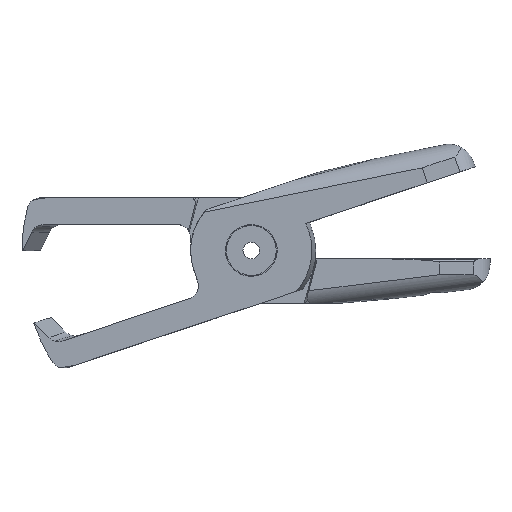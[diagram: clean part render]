
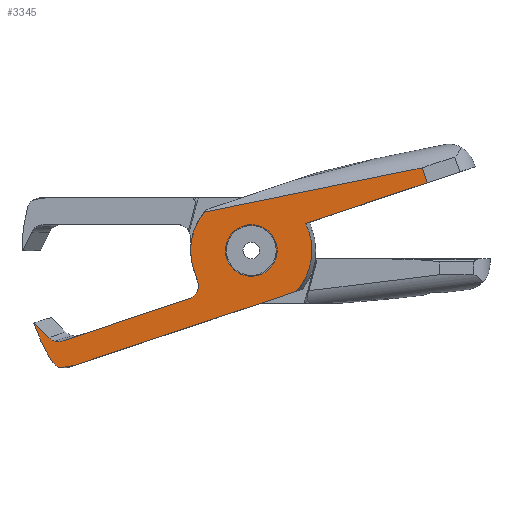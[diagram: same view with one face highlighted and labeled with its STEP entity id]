
A CAD part, top view. The second image highlights one B-rep face of the part: STEP entity #3345.
In plain terms, the highlighted planar face has unit normal (0, 0, 1) as drawn and (0, 0, -1) by its records, which use the part's own axes.
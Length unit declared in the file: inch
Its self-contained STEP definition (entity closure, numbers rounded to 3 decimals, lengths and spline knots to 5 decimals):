
#2645=CARTESIAN_POINT('',(0.87205,1.16708,0.0455));
#2646=VERTEX_POINT('',#2645);
#2654=CARTESIAN_POINT('',(0.39196,1.16708,0.0455));
#2655=VERTEX_POINT('',#2654);
#2662=CARTESIAN_POINT('',(0.632,1.16708,0.0455));
#2663=DIRECTION('',(0.0,0.0,-1.0));
#2664=DIRECTION('',(1.0,0.0,0.0));
#2665=AXIS2_PLACEMENT_3D('',#2662,#2663,#2664);
#2666=CIRCLE('',#2665,0.24005);
#2667=EDGE_CURVE('',#2655,#2646,#2666,.T.);
#2840=CARTESIAN_POINT('',(1.21592,1.16708,0.0455));
#2841=VERTEX_POINT('',#2840);
#2849=CARTESIAN_POINT('',(0.91635,1.67708,0.0455));
#2850=VERTEX_POINT('',#2849);
#2851=CARTESIAN_POINT('',(0.632,1.16708,0.0455));
#2852=DIRECTION('',(0.0,0.0,1.0));
#2853=DIRECTION('',(1.0,0.0,0.0));
#2854=AXIS2_PLACEMENT_3D('',#2851,#2852,#2853);
#2855=CIRCLE('',#2854,0.58391);
#2856=EDGE_CURVE('',#2841,#2850,#2855,.T.);
#2994=CARTESIAN_POINT('',(-1.4346,1.3975,0.0455));
#2995=VERTEX_POINT('',#2994);
#3004=CARTESIAN_POINT('',(-1.36313,1.41708,0.0455));
#3005=VERTEX_POINT('',#3004);
#3006=CARTESIAN_POINT('',(-1.36313,1.29208,0.0455));
#3007=DIRECTION('',(0.0,0.0,-1.0));
#3008=DIRECTION('',(-1.0,0.0,0.0));
#3009=AXIS2_PLACEMENT_3D('',#3006,#3007,#3008);
#3010=ELLIPSE('',#3009,0.13302,0.125);
#3011=EDGE_CURVE('',#2995,#3005,#3010,.T.);
#3079=CARTESIAN_POINT('',(-1.47762,1.65004,0.0455));
#3080=VERTEX_POINT('',#3079);
#3088=CARTESIAN_POINT('',(-1.52423,1.58169,0.0455));
#3089=VERTEX_POINT('',#3088);
#3090=CARTESIAN_POINT('',(-1.39499,1.55208,0.0455));
#3091=DIRECTION('',(0.0,0.0,-1.0));
#3092=DIRECTION('',(-1.0,0.0,0.0));
#3093=AXIS2_PLACEMENT_3D('',#3090,#3091,#3092);
#3094=ELLIPSE('',#3093,0.13302,0.125);
#3095=EDGE_CURVE('',#3089,#3080,#3094,.T.);
#3121=CARTESIAN_POINT('',(-1.57725,1.16708,0.0455));
#3122=VERTEX_POINT('',#3121);
#3123=CARTESIAN_POINT('',(0.28506,1.16708,0.0455));
#3124=DIRECTION('',(0.0,0.0,-1.0));
#3125=DIRECTION('',(-1.0,0.0,0.0));
#3126=AXIS2_PLACEMENT_3D('',#3123,#3124,#3125);
#3127=ELLIPSE('',#3126,1.86231,1.75);
#3128=EDGE_CURVE('',#3122,#3089,#3127,.T.);
#3221=CARTESIAN_POINT('',(-2.118,1.71708,0.0455));
#3222=DIRECTION('',(0.0,0.0,1.0));
#3223=DIRECTION('',(1.0,0.0,0.0));
#3224=AXIS2_PLACEMENT_3D('',#3221,#3222,#3223);
#3225=PLANE('',#3224);
#3226=ORIENTED_EDGE('',*,*,#3128,.T.);
#3227=ORIENTED_EDGE('',*,*,#3095,.T.);
#3228=CARTESIAN_POINT('',(-1.32208,1.67708,0.0455));
#3229=VERTEX_POINT('',#3228);
#3230=CARTESIAN_POINT('',(-1.23533,0.71708,0.0455));
#3231=DIRECTION('',(0.0,0.0,1.0));
#3232=DIRECTION('',(1.0,0.0,0.0));
#3233=AXIS2_PLACEMENT_3D('',#3230,#3231,#3232);
#3234=CIRCLE('',#3233,0.96391);
#3235=EDGE_CURVE('',#3229,#3080,#3234,.T.);
#3236=ORIENTED_EDGE('',*,*,#3235,.F.);
#3237=CARTESIAN_POINT('',(0.91635,1.67708,0.0455));
#3238=DIRECTION('',(-1.0,0.,0.));
#3239=VECTOR('',#3238,2.23843);
#3240=LINE('',#3237,#3239);
#3241=EDGE_CURVE('',#2850,#3229,#3240,.T.);
#3242=ORIENTED_EDGE('',*,*,#3241,.F.);
#3243=ORIENTED_EDGE('',*,*,#2856,.F.);
#3244=CARTESIAN_POINT('',(1.21031,1.08636,0.0455));
#3245=VERTEX_POINT('',#3244);
#3246=CARTESIAN_POINT('',(0.632,1.16708,0.0455));
#3247=DIRECTION('',(0.0,0.0,1.0));
#3248=DIRECTION('',(1.0,0.0,0.0));
#3249=AXIS2_PLACEMENT_3D('',#3246,#3247,#3248);
#3250=CIRCLE('',#3249,0.58391);
#3251=EDGE_CURVE('',#3245,#2841,#3250,.T.);
#3252=ORIENTED_EDGE('',*,*,#3251,.F.);
#3253=CARTESIAN_POINT('',(2.44473,1.08636,0.0455));
#3254=VERTEX_POINT('',#3253);
#3255=CARTESIAN_POINT('',(2.44473,1.08636,0.0455));
#3256=DIRECTION('',(-1.0,0.0,0.0));
#3257=VECTOR('',#3256,1.23442);
#3258=LINE('',#3255,#3257);
#3259=EDGE_CURVE('',#3254,#3245,#3258,.T.);
#3260=ORIENTED_EDGE('',*,*,#3259,.F.);
#3261=CARTESIAN_POINT('',(2.44473,0.93368,0.0455));
#3262=VERTEX_POINT('',#3261);
#3263=CARTESIAN_POINT('',(2.44473,0.93368,0.0455));
#3264=DIRECTION('',(0.0,1.0,0.0));
#3265=VECTOR('',#3264,0.15268);
#3266=LINE('',#3263,#3265);
#3267=EDGE_CURVE('',#3262,#3254,#3266,.T.);
#3268=ORIENTED_EDGE('',*,*,#3267,.F.);
#3269=CARTESIAN_POINT('',(0.31924,0.6727,0.0455));
#3270=VERTEX_POINT('',#3269);
#3271=CARTESIAN_POINT('',(2.44473,0.93368,0.0455));
#3272=DIRECTION('',(-0.993,-0.122,0.));
#3273=VECTOR('',#3272,2.14145);
#3274=LINE('',#3271,#3273);
#3275=EDGE_CURVE('',#3262,#3270,#3274,.T.);
#3276=ORIENTED_EDGE('',*,*,#3275,.T.);
#3277=CARTESIAN_POINT('',(0.047,1.16708,0.0455));
#3278=VERTEX_POINT('',#3277);
#3279=CARTESIAN_POINT('',(0.632,1.16708,0.0455));
#3280=DIRECTION('',(0.0,0.0,1.0));
#3281=DIRECTION('',(1.0,0.0,0.0));
#3282=AXIS2_PLACEMENT_3D('',#3279,#3280,#3281);
#3283=CIRCLE('',#3282,0.585);
#3284=EDGE_CURVE('',#3278,#3270,#3283,.T.);
#3285=ORIENTED_EDGE('',*,*,#3284,.F.);
#3286=CARTESIAN_POINT('',(0.047,1.29208,0.0455));
#3287=VERTEX_POINT('',#3286);
#3288=CARTESIAN_POINT('',(0.047,1.29208,0.0455));
#3289=DIRECTION('',(0.0,-1.0,0.0));
#3290=VECTOR('',#3289,0.125);
#3291=LINE('',#3288,#3290);
#3292=EDGE_CURVE('',#3287,#3278,#3291,.T.);
#3293=ORIENTED_EDGE('',*,*,#3292,.F.);
#3294=CARTESIAN_POINT('',(-0.078,1.41708,0.0455));
#3295=VERTEX_POINT('',#3294);
#3296=CARTESIAN_POINT('',(-0.078,1.29208,0.0455));
#3297=DIRECTION('',(0.0,0.0,-1.0));
#3298=DIRECTION('',(-1.0,0.0,0.0));
#3299=AXIS2_PLACEMENT_3D('',#3296,#3297,#3298);
#3300=CIRCLE('',#3299,0.125);
#3301=EDGE_CURVE('',#3295,#3287,#3300,.T.);
#3302=ORIENTED_EDGE('',*,*,#3301,.F.);
#3303=CARTESIAN_POINT('',(-1.36313,1.41708,0.0455));
#3304=DIRECTION('',(1.0,0.0,0.0));
#3305=VECTOR('',#3304,1.28513);
#3306=LINE('',#3303,#3305);
#3307=EDGE_CURVE('',#3005,#3295,#3306,.T.);
#3308=ORIENTED_EDGE('',*,*,#3307,.F.);
#3309=ORIENTED_EDGE('',*,*,#3011,.F.);
#3310=CARTESIAN_POINT('',(-1.48369,1.3449,0.0455));
#3311=VERTEX_POINT('',#3310);
#3312=CARTESIAN_POINT('',(-1.36313,1.29208,0.0455));
#3313=DIRECTION('',(0.0,0.0,-1.0));
#3314=DIRECTION('',(-1.0,0.0,0.0));
#3315=AXIS2_PLACEMENT_3D('',#3312,#3313,#3314);
#3316=ELLIPSE('',#3315,0.13302,0.125);
#3317=EDGE_CURVE('',#3311,#2995,#3316,.T.);
#3318=ORIENTED_EDGE('',*,*,#3317,.F.);
#3319=CARTESIAN_POINT('',(-1.57193,1.16708,0.0455));
#3320=VERTEX_POINT('',#3319);
#3321=CARTESIAN_POINT('',(-1.48369,1.3449,0.0455));
#3322=DIRECTION('',(-0.445,-0.896,0.));
#3323=VECTOR('',#3322,0.19852);
#3324=LINE('',#3321,#3323);
#3325=EDGE_CURVE('',#3311,#3320,#3324,.T.);
#3326=ORIENTED_EDGE('',*,*,#3325,.T.);
#3327=CARTESIAN_POINT('',(-1.57725,1.16708,0.0455));
#3328=DIRECTION('',(1.0,0.0,0.0));
#3329=VECTOR('',#3328,0.00532);
#3330=LINE('',#3327,#3329);
#3331=EDGE_CURVE('',#3122,#3320,#3330,.T.);
#3332=ORIENTED_EDGE('',*,*,#3331,.F.);
#3333=EDGE_LOOP('',(#3226,#3227,#3236,#3242,#3243,#3252,#3260,#3268,#3276,#3285,#3293,#3302,#3308,#3309,#3318,#3326,#3332));
#3334=FACE_OUTER_BOUND('',#3333,.T.);
#3335=ORIENTED_EDGE('',*,*,#2667,.F.);
#3336=CARTESIAN_POINT('',(0.632,1.16708,0.0455));
#3337=DIRECTION('',(0.0,0.0,-1.0));
#3338=DIRECTION('',(1.0,0.0,0.0));
#3339=AXIS2_PLACEMENT_3D('',#3336,#3337,#3338);
#3340=CIRCLE('',#3339,0.24005);
#3341=EDGE_CURVE('',#2646,#2655,#3340,.T.);
#3342=ORIENTED_EDGE('',*,*,#3341,.F.);
#3343=EDGE_LOOP('',(#3335,#3342));
#3344=FACE_BOUND('',#3343,.T.);
#3345=ADVANCED_FACE('',(#3334,#3344),#3225,.F.);
